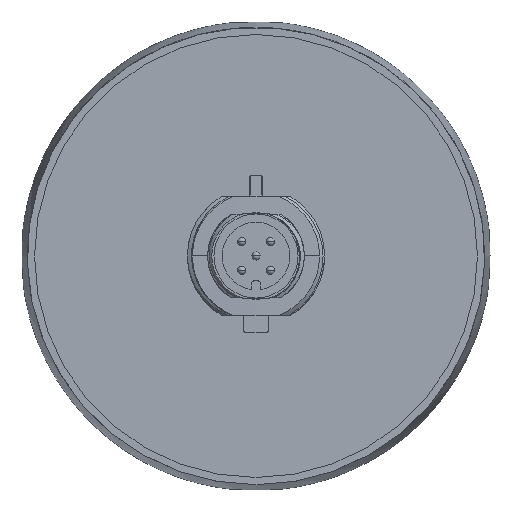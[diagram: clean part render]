
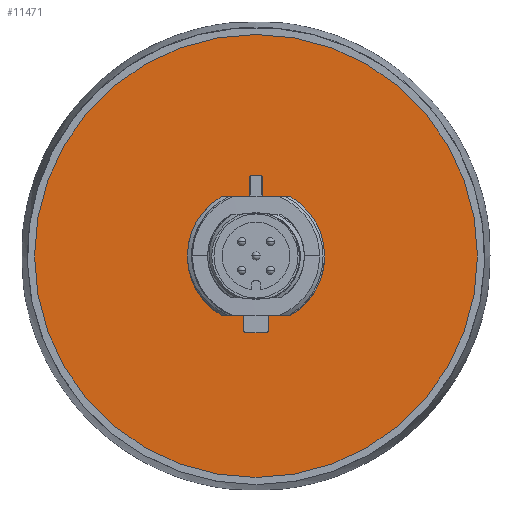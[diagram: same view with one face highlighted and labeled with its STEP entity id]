
A CAD part, front view. The second image highlights one B-rep face of the part: STEP entity #11471.
In plain terms, the highlighted planar face has unit normal (0, -1, 0).
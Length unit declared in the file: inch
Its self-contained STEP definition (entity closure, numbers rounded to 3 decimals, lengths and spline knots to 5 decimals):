
#2741=DIRECTION('',(-1.,0.,0.017));
#2742=VECTOR('',#2741,0.09938);
#2743=CARTESIAN_POINT('',(-0.06943,-0.364,-0.28879));
#2744=LINE('',#2743,#2742);
#2749=CARTESIAN_POINT('',(0.,-0.364,0.));
#2750=DIRECTION('',(0.,1.,0.));
#2751=DIRECTION('',(-0.507,0.,-0.862));
#2752=AXIS2_PLACEMENT_3D('',#2749,#2750,#2751);
#2758=CARTESIAN_POINT('',(0.,-0.364,0.));
#2759=DIRECTION('',(0.,1.,0.));
#2760=DIRECTION('',(1.,0.,0.));
#2761=AXIS2_PLACEMENT_3D('',#2758,#2759,#2760);
#2763=CARTESIAN_POINT('',(0.,-0.364,0.));
#2764=DIRECTION('',(0.,1.,0.));
#2765=DIRECTION('',(-1.,0.,0.));
#2766=AXIS2_PLACEMENT_3D('',#2763,#2764,#2765);
#2776=DIRECTION('',(-1.,0.,0.));
#2777=VECTOR('',#2776,0.0392);
#2778=CARTESIAN_POINT('',(0.0196,-0.364,0.39296));
#2779=LINE('',#2778,#2777);
#2780=CARTESIAN_POINT('',(0.0196,-0.364,0.39296));
#2781=CARTESIAN_POINT('',(0.02293,-0.364,0.39296));
#2782=CARTESIAN_POINT('',(0.02707,-0.364,0.39043));
#2783=CARTESIAN_POINT('',(0.0296,-0.364,0.38629));
#2784=CARTESIAN_POINT('',(0.0296,-0.364,0.38296));
#2790=DIRECTION('',(0.,0.,1.));
#2791=VECTOR('',#2790,0.08365);
#2792=CARTESIAN_POINT('',(0.0296,-0.364,0.29931));
#2793=LINE('',#2792,#2791);
#2798=CARTESIAN_POINT('',(0.03943,-0.364,0.28931));
#2799=CARTESIAN_POINT('',(0.03615,-0.364,0.28937));
#2800=CARTESIAN_POINT('',(0.03206,-0.364,0.2919));
#2801=CARTESIAN_POINT('',(0.0296,-0.364,0.29603));
#2802=CARTESIAN_POINT('',(0.0296,-0.364,0.29931));
#2808=DIRECTION('',(1.,0.,-0.017));
#2809=VECTOR('',#2808,0.12938);
#2810=CARTESIAN_POINT('',(0.03943,-0.364,0.28931));
#2811=LINE('',#2810,#2809);
#2887=CARTESIAN_POINT('',(0.,-0.364,0.));
#2888=DIRECTION('',(0.,1.,0.));
#2889=DIRECTION('',(0.507,0.,0.862));
#2890=AXIS2_PLACEMENT_3D('',#2887,#2888,#2889);
#2896=DIRECTION('',(-1.,0.,-0.017));
#2897=VECTOR('',#2896,0.09938);
#2898=CARTESIAN_POINT('',(0.16879,-0.364,-0.28705));
#2899=LINE('',#2898,#2897);
#2971=CARTESIAN_POINT('',(0.06943,-0.364,-0.28879));
#2972=CARTESIAN_POINT('',(0.06615,-0.364,-0.28885));
#2973=CARTESIAN_POINT('',(0.06206,-0.364,-0.29138));
#2974=CARTESIAN_POINT('',(0.0596,-0.364,-0.29551));
#2975=CARTESIAN_POINT('',(0.0596,-0.364,-0.29879));
#2985=DIRECTION('',(0.,0.,1.));
#2986=VECTOR('',#2985,0.06417);
#2987=CARTESIAN_POINT('',(0.0596,-0.364,-0.36296));
#2988=LINE('',#2987,#2986);
#2989=CARTESIAN_POINT('',(0.0596,-0.364,-0.36296));
#2990=CARTESIAN_POINT('',(0.0596,-0.364,-0.36629));
#2991=CARTESIAN_POINT('',(0.05707,-0.364,-0.37043));
#2992=CARTESIAN_POINT('',(0.05293,-0.364,-0.37296));
#2993=CARTESIAN_POINT('',(0.0496,-0.364,-0.37296));
#2999=DIRECTION('',(1.,0.,0.));
#3000=VECTOR('',#2999,0.0992);
#3001=CARTESIAN_POINT('',(-0.0496,-0.364,-0.37296));
#3002=LINE('',#3001,#3000);
#3007=CARTESIAN_POINT('',(-0.0496,-0.364,-0.37296));
#3008=CARTESIAN_POINT('',(-0.05293,-0.364,-0.37296));
#3009=CARTESIAN_POINT('',(-0.05707,-0.364,-0.37043));
#3010=CARTESIAN_POINT('',(-0.0596,-0.364,-0.36629));
#3011=CARTESIAN_POINT('',(-0.0596,-0.364,-0.36296));
#3017=DIRECTION('',(0.,0.,-1.));
#3018=VECTOR('',#3017,0.06417);
#3019=CARTESIAN_POINT('',(-0.0596,-0.364,-0.29879));
#3020=LINE('',#3019,#3018);
#3025=CARTESIAN_POINT('',(-0.06943,-0.364,-0.28879));
#3026=CARTESIAN_POINT('',(-0.06615,-0.364,-0.28885));
#3027=CARTESIAN_POINT('',(-0.06206,-0.364,-0.29138));
#3028=CARTESIAN_POINT('',(-0.0596,-0.364,-0.29551));
#3029=CARTESIAN_POINT('',(-0.0596,-0.364,-0.29879));
#4061=DIRECTION('',(1.,0.,0.017));
#4062=VECTOR('',#4061,0.12938);
#4063=CARTESIAN_POINT('',(-0.16879,-0.364,0.28705));
#4064=LINE('',#4063,#4062);
#4136=CARTESIAN_POINT('',(-0.03943,-0.364,0.28931));
#4137=CARTESIAN_POINT('',(-0.03615,-0.364,0.28937));
#4138=CARTESIAN_POINT('',(-0.03206,-0.364,0.2919));
#4139=CARTESIAN_POINT('',(-0.0296,-0.364,0.29603));
#4140=CARTESIAN_POINT('',(-0.0296,-0.364,0.29931));
#4150=DIRECTION('',(0.,0.,-1.));
#4151=VECTOR('',#4150,0.08365);
#4152=CARTESIAN_POINT('',(-0.0296,-0.364,0.38296));
#4153=LINE('',#4152,#4151);
#4154=CARTESIAN_POINT('',(-0.0296,-0.364,0.38296));
#4155=CARTESIAN_POINT('',(-0.0296,-0.364,0.38629));
#4156=CARTESIAN_POINT('',(-0.02707,-0.364,0.39043));
#4157=CARTESIAN_POINT('',(-0.02293,-0.364,0.39296));
#4158=CARTESIAN_POINT('',(-0.0196,-0.364,0.39296));
#7182=CARTESIAN_POINT('',(1.075,-0.364,0.));
#7183=CARTESIAN_POINT('',(-1.075,-0.364,0.));
#7184=VERTEX_POINT('',#7182);
#7185=VERTEX_POINT('',#7183);
#7224=CARTESIAN_POINT('',(0.0196,-0.364,0.39296));
#7225=VERTEX_POINT('',#7224);
#7226=CARTESIAN_POINT('',(-0.0196,-0.364,0.39296));
#7227=VERTEX_POINT('',#7226);
#7228=CARTESIAN_POINT('',(0.0296,-0.364,0.38296));
#7229=VERTEX_POINT('',#7228);
#7230=CARTESIAN_POINT('',(0.0296,-0.364,0.29931));
#7231=VERTEX_POINT('',#7230);
#7232=CARTESIAN_POINT('',(0.0596,-0.364,-0.36296));
#7233=VERTEX_POINT('',#7232);
#7234=CARTESIAN_POINT('',(0.0596,-0.364,-0.29879));
#7235=VERTEX_POINT('',#7234);
#7236=CARTESIAN_POINT('',(0.0496,-0.364,-0.37296));
#7237=VERTEX_POINT('',#7236);
#7238=CARTESIAN_POINT('',(-0.0496,-0.364,-0.37296));
#7239=VERTEX_POINT('',#7238);
#7240=CARTESIAN_POINT('',(-0.0596,-0.364,-0.36296));
#7241=VERTEX_POINT('',#7240);
#7242=CARTESIAN_POINT('',(-0.0596,-0.364,-0.29879));
#7243=VERTEX_POINT('',#7242);
#7244=CARTESIAN_POINT('',(-0.0296,-0.364,0.38296));
#7245=VERTEX_POINT('',#7244);
#7246=CARTESIAN_POINT('',(-0.0296,-0.364,0.29931));
#7247=VERTEX_POINT('',#7246);
#7248=CARTESIAN_POINT('',(0.03943,-0.364,0.28931));
#7249=VERTEX_POINT('',#7248);
#7250=CARTESIAN_POINT('',(0.16879,-0.364,0.28705));
#7251=VERTEX_POINT('',#7250);
#7252=CARTESIAN_POINT('',(-0.16879,-0.364,-0.28705));
#7253=VERTEX_POINT('',#7252);
#7254=CARTESIAN_POINT('',(-0.16879,-0.364,0.28705));
#7255=VERTEX_POINT('',#7254);
#7256=CARTESIAN_POINT('',(0.16879,-0.364,-0.28705));
#7257=VERTEX_POINT('',#7256);
#7258=CARTESIAN_POINT('',(-0.06943,-0.364,-0.28879));
#7259=VERTEX_POINT('',#7258);
#7260=CARTESIAN_POINT('',(0.06943,-0.364,-0.28879));
#7261=VERTEX_POINT('',#7260);
#7262=CARTESIAN_POINT('',(-0.03943,-0.364,0.28931));
#7263=VERTEX_POINT('',#7262);
#11420=CARTESIAN_POINT('',(0.,-0.364,0.));
#11421=DIRECTION('',(0.,1.,0.));
#11422=DIRECTION('',(1.,0.,0.));
#11423=AXIS2_PLACEMENT_3D('',#11420,#11421,#11422);
#11424=PLANE('',#11423);
#11426=ORIENTED_EDGE('',*,*,#11425,.T.);
#11428=ORIENTED_EDGE('',*,*,#11427,.T.);
#11429=EDGE_LOOP('',(#11426,#11428));
#11430=FACE_OUTER_BOUND('',#11429,.F.);
#11432=ORIENTED_EDGE('',*,*,#11431,.T.);
#11434=ORIENTED_EDGE('',*,*,#11433,.F.);
#11436=ORIENTED_EDGE('',*,*,#11435,.T.);
#11438=ORIENTED_EDGE('',*,*,#11437,.F.);
#11440=ORIENTED_EDGE('',*,*,#11439,.F.);
#11441=ORIENTED_EDGE('',*,*,#11409,.F.);
#11442=ORIENTED_EDGE('',*,*,#11398,.F.);
#11444=ORIENTED_EDGE('',*,*,#11443,.T.);
#11446=ORIENTED_EDGE('',*,*,#11445,.T.);
#11448=ORIENTED_EDGE('',*,*,#11447,.F.);
#11450=ORIENTED_EDGE('',*,*,#11449,.T.);
#11452=ORIENTED_EDGE('',*,*,#11451,.F.);
#11454=ORIENTED_EDGE('',*,*,#11453,.T.);
#11456=ORIENTED_EDGE('',*,*,#11455,.F.);
#11458=ORIENTED_EDGE('',*,*,#11457,.F.);
#11460=ORIENTED_EDGE('',*,*,#11459,.F.);
#11462=ORIENTED_EDGE('',*,*,#11461,.F.);
#11464=ORIENTED_EDGE('',*,*,#11463,.T.);
#11466=ORIENTED_EDGE('',*,*,#11465,.T.);
#11468=ORIENTED_EDGE('',*,*,#11467,.F.);
#11469=EDGE_LOOP('',(#11432,#11434,#11436,#11438,#11440,#11441,#11442,#11444,
#11446,#11448,#11450,#11452,#11454,#11456,#11458,#11460,#11462,#11464,#11466,
#11468));
#11470=FACE_BOUND('',#11469,.F.);
#11471=ADVANCED_FACE('',(#11430,#11470),#11424,.F.);
#2753=CIRCLE('',#2752,0.333);
#2762=CIRCLE('',#2761,1.075);
#2767=CIRCLE('',#2766,1.075);
#2785=B_SPLINE_CURVE_WITH_KNOTS('',3,(#2780,#2781,#2782,#2783,#2784),
.UNSPECIFIED.,.F.,.F.,(4,1,4),(0.,0.5,1.),.UNSPECIFIED.);
#2803=B_SPLINE_CURVE_WITH_KNOTS('',3,(#2798,#2799,#2800,#2801,#2802),
.UNSPECIFIED.,.F.,.F.,(4,1,4),(0.,0.5,1.),.UNSPECIFIED.);
#2891=CIRCLE('',#2890,0.333);
#2976=B_SPLINE_CURVE_WITH_KNOTS('',3,(#2971,#2972,#2973,#2974,#2975),
.UNSPECIFIED.,.F.,.F.,(4,1,4),(0.,0.5,1.),.UNSPECIFIED.);
#2994=B_SPLINE_CURVE_WITH_KNOTS('',3,(#2989,#2990,#2991,#2992,#2993),
.UNSPECIFIED.,.F.,.F.,(4,1,4),(0.,0.5,1.),.UNSPECIFIED.);
#3012=B_SPLINE_CURVE_WITH_KNOTS('',3,(#3007,#3008,#3009,#3010,#3011),
.UNSPECIFIED.,.F.,.F.,(4,1,4),(0.,0.5,1.),.UNSPECIFIED.);
#3030=B_SPLINE_CURVE_WITH_KNOTS('',3,(#3025,#3026,#3027,#3028,#3029),
.UNSPECIFIED.,.F.,.F.,(4,1,4),(0.,0.5,1.),.UNSPECIFIED.);
#4141=B_SPLINE_CURVE_WITH_KNOTS('',3,(#4136,#4137,#4138,#4139,#4140),
.UNSPECIFIED.,.F.,.F.,(4,1,4),(0.,0.5,1.),.UNSPECIFIED.);
#4159=B_SPLINE_CURVE_WITH_KNOTS('',3,(#4154,#4155,#4156,#4157,#4158),
.UNSPECIFIED.,.F.,.F.,(4,1,4),(0.,0.5,1.),.UNSPECIFIED.);
#11398=EDGE_CURVE('',#7259,#7253,#2744,.T.);
#11409=EDGE_CURVE('',#7253,#7255,#2753,.T.);
#11425=EDGE_CURVE('',#7184,#7185,#2762,.T.);
#11427=EDGE_CURVE('',#7185,#7184,#2767,.T.);
#11431=EDGE_CURVE('',#7225,#7227,#2779,.T.);
#11433=EDGE_CURVE('',#7245,#7227,#4159,.T.);
#11435=EDGE_CURVE('',#7245,#7247,#4153,.T.);
#11437=EDGE_CURVE('',#7263,#7247,#4141,.T.);
#11439=EDGE_CURVE('',#7255,#7263,#4064,.T.);
#11443=EDGE_CURVE('',#7259,#7243,#3030,.T.);
#11445=EDGE_CURVE('',#7243,#7241,#3020,.T.);
#11447=EDGE_CURVE('',#7239,#7241,#3012,.T.);
#11449=EDGE_CURVE('',#7239,#7237,#3002,.T.);
#11451=EDGE_CURVE('',#7233,#7237,#2994,.T.);
#11453=EDGE_CURVE('',#7233,#7235,#2988,.T.);
#11455=EDGE_CURVE('',#7261,#7235,#2976,.T.);
#11457=EDGE_CURVE('',#7257,#7261,#2899,.T.);
#11459=EDGE_CURVE('',#7251,#7257,#2891,.T.);
#11461=EDGE_CURVE('',#7249,#7251,#2811,.T.);
#11463=EDGE_CURVE('',#7249,#7231,#2803,.T.);
#11465=EDGE_CURVE('',#7231,#7229,#2793,.T.);
#11467=EDGE_CURVE('',#7225,#7229,#2785,.T.);
